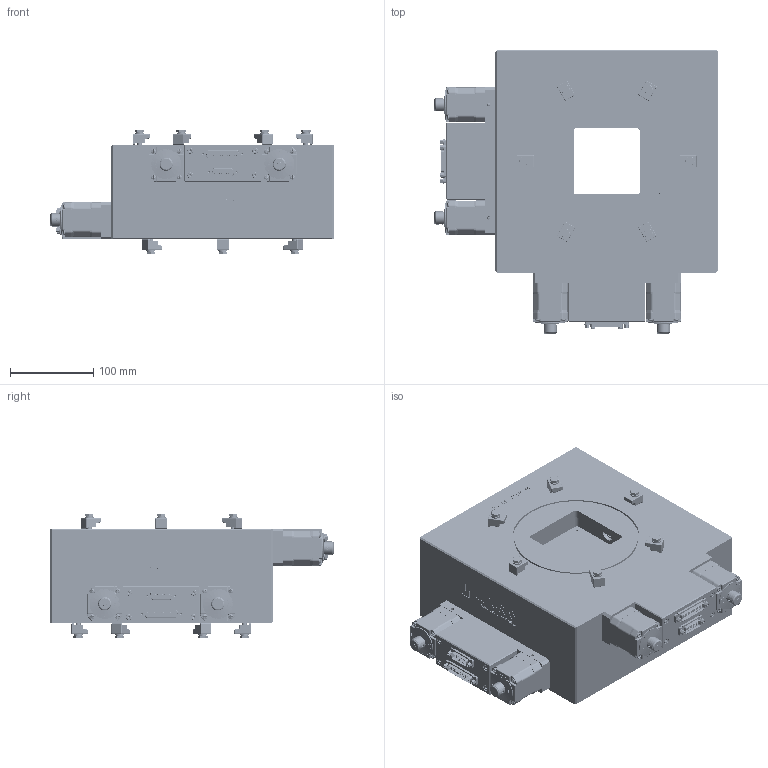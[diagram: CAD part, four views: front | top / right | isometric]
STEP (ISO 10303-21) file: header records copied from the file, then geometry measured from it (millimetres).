
FILE_DESCRIPTION((''),'2;1');
FILE_NAME('C:\WF\Designs\Slitter\0907 IBC80V\Hjemmeside\IB-C80-HV Slit.stp','2012-10-02T14:14:59',('Henning'),(''),'Autodesk Inventor 2013','Autodesk Inventor 2013','');
FILE_SCHEMA(('AUTOMOTIVE_DESIGN { 1 0 10303 214 1 1 1 1 }'));
Products named in the file (29): IB-C80-HV Slit for step; 0907000c0 for step; 0907001a1; 0907006a4; 0907-982009d4; 0907-982007d4; Nema 17 motor (42x42) [Part Number [Project]=FL42STH47-1206MB][Description [Project]=Elmeq]; Dsub 25 Pin, 2 Row, Male; Dsub 15 Pin, 2 Row, Male; D-Connector screw; skalaknap; skalaknap del3; skalaknap del2; skalaknap del1; 09070010a4; 0907-061020a4; 09070011a4; DIN 912 - replaced by DIN EN ISO 4762 M4 x 40; 0907-061011a4; 0907007a4; DIN 7991 M3x8; 0907000d0 for step; 0907001b1; DIN EN ISO 4762 M5 x 50; KF Claw grip PF 104000-T; KF Claw grip; ISO 4017  (Normal gevind) M6 x 20; ISO 7092 ST 6 - 140 HV
Assembly tree (121 placements, depth 4):
  IB-C80-HV Slit for step
    0907000c0 for step
      0907001a1
      0907006a4
      0907-982009d4  x2
      0907-982007d4  x2
      Nema 17 motor (42x42) [Part Number [Project]=FL42STH47-1206MB][Description [Project]=Elmeq]  x2
      Dsub 25 Pin, 2 Row, Male  x2
      Dsub 15 Pin, 2 Row, Male
      D-Connector screw  x4
      skalaknap  x2
        skalaknap del3
        skalaknap
        skalaknap del2
        skalaknap del1
      09070010a4  x2
      0907-061020a4  x2
      09070011a4
      DIN 912 - replaced by DIN EN ISO 4762 M4 x 40  x4
      0907-061011a4  x8
      0907007a4  x2
      DIN 7991 M3x8  x12
    0907000d0 for step
      0907001b1
      0907006a4
      0907-982009d4  x2
      0907-982007d4  x2
      Nema 17 motor (42x42) [Part Number [Project]=FL42STH47-1206MB][Description [Project]=Elmeq]  x2
      Dsub 25 Pin, 2 Row, Male  x2
      Dsub 15 Pin, 2 Row, Male
      D-Connector screw  x4
      skalaknap  x2
        skalaknap del3
        skalaknap
        skalaknap del2
        skalaknap del1
      09070010a4  x2
      0907-061020a4  x2
      09070011a4
      DIN 912 - replaced by DIN EN ISO 4762 M4 x 40  x4
      0907-061011a4  x8
      0907007a4  x2
      DIN 7991 M3x8  x12
    DIN EN ISO 4762 M5 x 50  x4
    KF Claw grip PF 104000-T  x12
      KF Claw grip
      ISO 4017  (Normal gevind) M6 x 20
      ISO 7092 ST 6 - 140 HV
Bounding box: 342 x 342 x 150.2 mm (x, y, z)
Volume: 3177001.3 mm3; surface area: 812647.7 mm2
Topology: 148 solids, 148 shells, 10900 faces, 27816 edges, 17854 vertices
Faces by surface type: plane 5879, bspline 2069, cylinder 1838, cone 660, sphere 274, torus 180
Full cylindrical faces by diameter (mm): 0.991 x130, 1.567 x16, 2.156 x12, 2.43 x16, 2.459 x82, 2.487 x8, 2.5 x2, 2.82 x8, 3 x56, 3.048 x12, 3.1 x24, 3.242 x16, 3.5 x8, 4 x16, 4.134 x4, 4.5 x24, 4.917 x8, 5 x40, 5.5 x4, 5.6 x8, 6 x56, 6.4 x12, 6.5 x12, 6.6 x8, 7 x20, 7.5 x8, 8.376 x12, 8.5 x4, 8.88 x12, 8.9 x4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
Entity records: 120609 total; most frequent: CARTESIAN_POINT 36386, ORIENTED_EDGE 18058, DIRECTION 14123, EDGE_CURVE 9029, VERTEX_POINT 6133, VECTOR 5265, LINE 5265, EDGE_LOOP 4680
